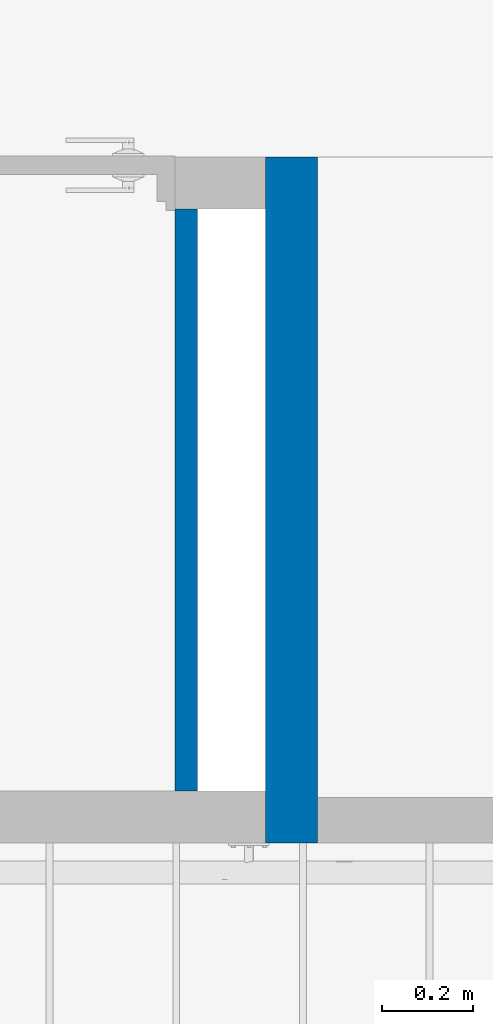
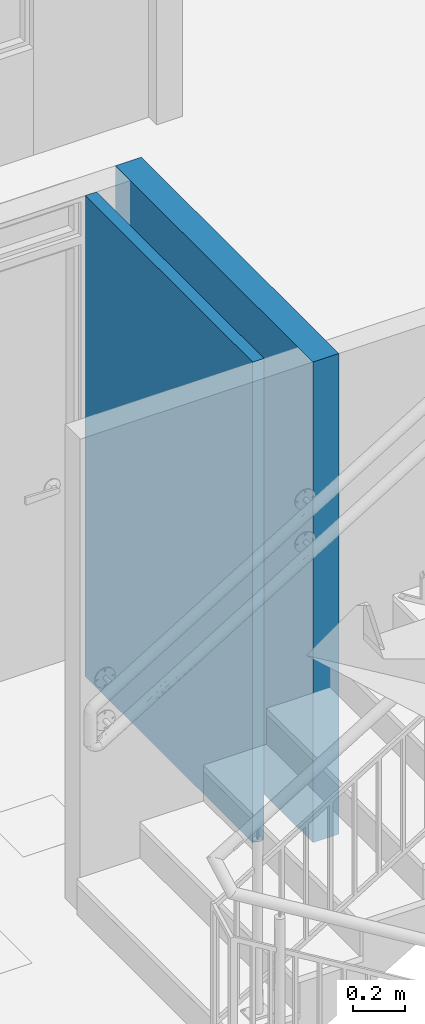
# One storey, part 22 of 51: 2 walls.
"""IFC4 building model written with IfcOpenShell, lengths in metres."""

from ifc_helpers import new_model, entity, si_unit, converted_unit, derived_unit, direction, frame, origin, place, context, subcontext, project, spatial, indexed_curve, outline, extrude, material, type_object, element, save


model = new_model("IFC4")

# Units and contexts
model_context = context("Model", 3, precision=1e-05, world=origin(), true_north=direction((6.123031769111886e-17, 1.0)))
body_context = subcontext(model_context, "Body", "Model", "MODEL_VIEW")
ifc_project = project(units=[si_unit("LENGTHUNIT", "METRE"), si_unit("AREAUNIT", "SQUARE_METRE"), si_unit("VOLUMEUNIT", "CUBIC_METRE"), converted_unit("PLANEANGLEUNIT", "DEGREE", entity("IfcRatioMeasure", 0.017453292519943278), si_unit("PLANEANGLEUNIT", "RADIAN"), dimensions=[0, 0, 0, 0, 0, 0, 0]), si_unit("MASSUNIT", "GRAM", prefix="KILO"), derived_unit("MASSDENSITYUNIT", [(si_unit("MASSUNIT", "GRAM", prefix="KILO"), 1), (si_unit("LENGTHUNIT", "METRE"), -3)]), derived_unit("IONCONCENTRATIONUNIT", [(si_unit("MASSUNIT", "GRAM", prefix="KILO"), 1), (si_unit("LENGTHUNIT", "METRE"), -3)]), derived_unit("MOMENTOFINERTIAUNIT", [(si_unit("LENGTHUNIT", "METRE"), 4)]), si_unit("TIMEUNIT", "SECOND"), si_unit("FREQUENCYUNIT", "HERTZ"), si_unit("THERMODYNAMICTEMPERATUREUNIT", "DEGREE_CELSIUS"), derived_unit("THERMALTRANSMITTANCEUNIT", [(si_unit("MASSUNIT", "GRAM", prefix="KILO"), 1), (si_unit("THERMODYNAMICTEMPERATUREUNIT", "KELVIN"), -1), (si_unit("TIMEUNIT", "SECOND"), -3)]), derived_unit("THERMALCONDUCTANCEUNIT", [(si_unit("MASSUNIT", "GRAM", prefix="KILO"), 1), (si_unit("THERMODYNAMICTEMPERATUREUNIT", "KELVIN"), -1), (si_unit("TIMEUNIT", "SECOND"), -3), (si_unit("LENGTHUNIT", "METRE"), 1)]), derived_unit("VOLUMETRICFLOWRATEUNIT", [(si_unit("LENGTHUNIT", "METRE"), 3), (si_unit("TIMEUNIT", "SECOND"), -1)]), derived_unit("MASSFLOWRATEUNIT", [(si_unit("MASSUNIT", "GRAM", prefix="KILO"), 1), (si_unit("TIMEUNIT", "SECOND"), -1)]), derived_unit("ROTATIONALFREQUENCYUNIT", [(si_unit("TIMEUNIT", "SECOND"), -1)]), si_unit("ELECTRICCURRENTUNIT", "AMPERE"), si_unit("ELECTRICVOLTAGEUNIT", "VOLT"), si_unit("POWERUNIT", "WATT"), si_unit("FORCEUNIT", "NEWTON", prefix="KILO"), si_unit("ILLUMINANCEUNIT", "LUX"), si_unit("LUMINOUSFLUXUNIT", "LUMEN"), si_unit("LUMINOUSINTENSITYUNIT", "CANDELA"), derived_unit("USERDEFINED", [(si_unit("MASSUNIT", "GRAM", prefix="KILO"), -1), (si_unit("LENGTHUNIT", "METRE"), -2), (si_unit("TIMEUNIT", "SECOND"), 3), (si_unit("LUMINOUSFLUXUNIT", "LUMEN"), 1)]), derived_unit("USERDEFINED", [(si_unit("MASSUNIT", "GRAM", prefix="KILO"), 1), (si_unit("TIMEUNIT", "SECOND"), -3), (si_unit("LENGTHUNIT", "METRE"), 3), (si_unit("ELECTRICCURRENTUNIT", "AMPERE"), -2)]), derived_unit("SOUNDPOWERUNIT", [(si_unit("MASSUNIT", "GRAM", prefix="KILO"), 1), (si_unit("TIMEUNIT", "SECOND"), -3), (si_unit("LENGTHUNIT", "METRE"), 2)]), derived_unit("SOUNDPRESSUREUNIT", [(si_unit("MASSUNIT", "GRAM", prefix="KILO"), 1), (si_unit("LENGTHUNIT", "METRE"), -1), (si_unit("TIMEUNIT", "SECOND"), -2)]), derived_unit("LINEARVELOCITYUNIT", [(si_unit("LENGTHUNIT", "METRE"), 1), (si_unit("TIMEUNIT", "SECOND"), -1)]), si_unit("PRESSUREUNIT", "PASCAL"), derived_unit("USERDEFINED", [(si_unit("MASSUNIT", "GRAM", prefix="KILO"), 1), (si_unit("LENGTHUNIT", "METRE"), -2), (si_unit("TIMEUNIT", "SECOND"), -2)]), derived_unit("LINEARFORCEUNIT", [(si_unit("MASSUNIT", "GRAM", prefix="KILO"), 1), (si_unit("TIMEUNIT", "SECOND"), -2)]), derived_unit("PLANARFORCEUNIT", [(si_unit("MASSUNIT", "GRAM", prefix="KILO"), 1), (si_unit("LENGTHUNIT", "METRE"), -1), (si_unit("TIMEUNIT", "SECOND"), -2)]), derived_unit("SPECIFICHEATCAPACITYUNIT", [(si_unit("THERMODYNAMICTEMPERATUREUNIT", "KELVIN"), -1), (si_unit("LENGTHUNIT", "METRE"), 2), (si_unit("TIMEUNIT", "SECOND"), -2)]), derived_unit("HEATINGVALUEUNIT", [(si_unit("LENGTHUNIT", "METRE"), 2), (si_unit("TIMEUNIT", "SECOND"), -2)]), derived_unit("VAPORPERMEABILITYUNIT", [(si_unit("LENGTHUNIT", "METRE"), -1), (si_unit("TIMEUNIT", "SECOND"), 1)]), derived_unit("DYNAMICVISCOSITYUNIT", [(si_unit("MASSUNIT", "GRAM", prefix="KILO"), 1), (si_unit("TIMEUNIT", "SECOND"), -1), (si_unit("LENGTHUNIT", "METRE"), -1)]), derived_unit("THERMALEXPANSIONCOEFFICIENTUNIT", [(si_unit("THERMODYNAMICTEMPERATUREUNIT", "KELVIN"), -1)]), derived_unit("MODULUSOFELASTICITYUNIT", [(si_unit("MASSUNIT", "GRAM", prefix="KILO"), 1), (si_unit("LENGTHUNIT", "METRE"), -1), (si_unit("TIMEUNIT", "SECOND"), -2)]), derived_unit("ISOTHERMALMOISTURECAPACITYUNIT", [(si_unit("LENGTHUNIT", "METRE"), 3), (si_unit("MASSUNIT", "GRAM", prefix="KILO"), -1)]), derived_unit("MOISTUREDIFFUSIVITYUNIT", [(si_unit("TIMEUNIT", "SECOND"), -1), (si_unit("LENGTHUNIT", "METRE"), 2)])], contexts=[model_context])

# Site, building, storey
site_placement = place(None, origin())
site = spatial("IfcSite", under=ifc_project, at=site_placement, Name="Default", CompositionType="ELEMENT")
building_placement = place(site_placement, origin())
building = spatial("IfcBuilding", under=site, at=building_placement, CompositionType="ELEMENT")
storey_placement = place(building_placement, frame((0.0, 0.0, 2.350000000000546)))
storey = spatial("IfcBuildingStorey", under=building, at=storey_placement, Name="Nivel 2", CompositionType="ELEMENT", Elevation=2.350000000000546)

# Walls
ifc_material_1 = material(Name="Ladrillo claro (Aire)", Category="Materials")
wall_type_1 = type_object("IfcWallType", Name="Basic Wall:B2010 - 0.115m - Muro interior en mampostería - Ladrillo", PredefinedType="STANDARD")
wall_1_placement = place(storey_placement, frame((10.6399999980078, -5.225000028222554, 0.0), z_axis=(0.0, 0.0, 1.0), x_axis=(0.0, 1.0, 0.0)))
element("IfcWall", 1, at=wall_1_placement, inside=storey, type_object=wall_type_1, material=ifc_material_1, Name="Basic Wall:B2010 - 0.115m - Muro interior en mampostería - Ladrillo", ObjectType="Basic Wall:B2010 - 0.115m - Muro interior en mampostería - Ladrillo", PredefinedType="NOTDEFINED", context=body_context, shape_type="SweptSolid", body=[
    extrude(outline(indexed_curve([(1.5150000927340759, 0.057500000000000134), (-9.033989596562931e-17, 0.057499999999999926), (9.033989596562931e-17, -0.057499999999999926), (1.5150000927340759, -0.05749999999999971), (1.5150000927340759, 0.057500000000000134)], self_intersect=False)), origin(), (0.0, 0.0, 1.0), 2.2499999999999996),
])
ifc_material_2 = material(Name="0 muro divisorio", Category="Materials")
wall_type_2 = type_object("IfcWallType", Name="Basic Wall:B2010 - 0.05m - MI No estructural- Concreto", PredefinedType="STANDARD")
wall_2_placement = place(storey_placement, frame((10.407500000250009, -5.110000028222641, 0.0), z_axis=(0.0, 0.0, 1.0), x_axis=(0.0, 1.0, 0.0)))
element("IfcWall", 2, at=wall_2_placement, inside=storey, type_object=wall_type_2, material=ifc_material_2, Name="Basic Wall:B2010 - 0.05m - MI No estructural- Concreto", ObjectType="Basic Wall:B2010 - 0.05m - MI No estructural- Concreto", PredefinedType="NOTDEFINED", context=body_context, shape_type="SweptSolid", body=[
    extrude(outline(indexed_curve([(1.2849999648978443, 0.025000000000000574), (-3.7405361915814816e-17, 0.025000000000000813), (3.7405361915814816e-17, -0.025000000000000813), (1.2849999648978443, -0.025000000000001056), (1.2849999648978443, 0.025000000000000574)], self_intersect=False)), origin(), (0.0, 0.0, 1.0), 2.2499999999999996),
])

save(model, "model.ifc")
